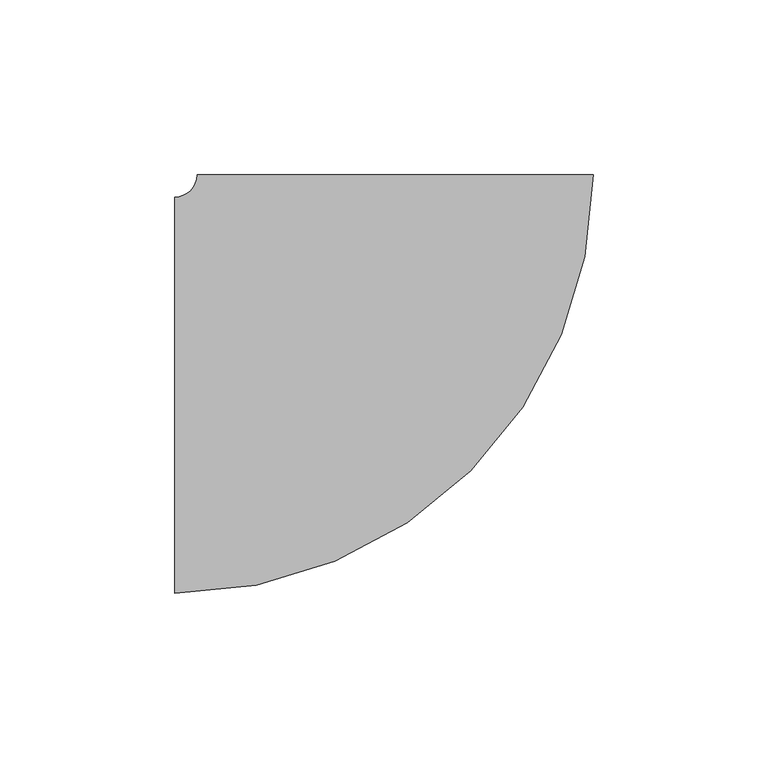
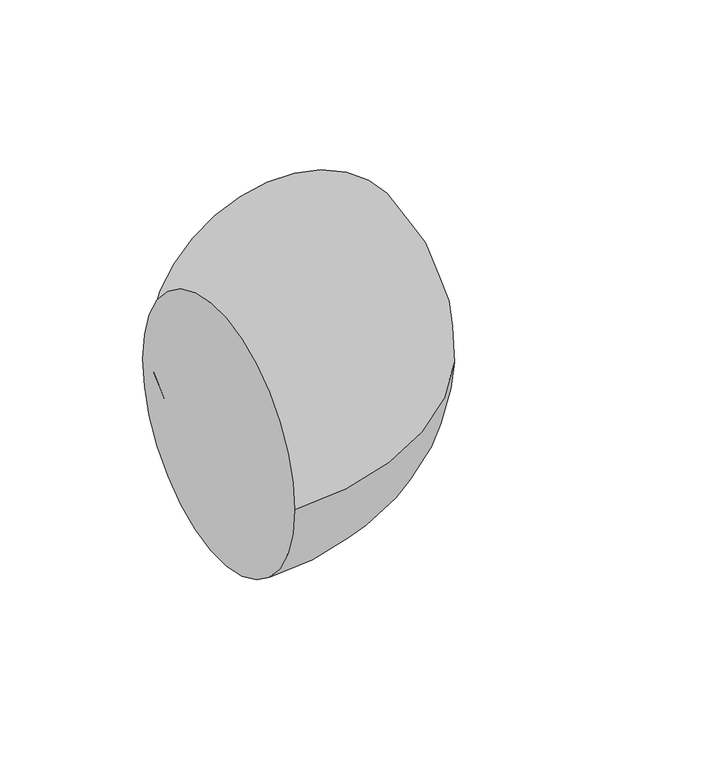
"""IFC4 building model written with IfcOpenShell, lengths in millimetres: pipe fitting geometry, M_Codo - Genérico : Estándar."""

from ifc_helpers import new_model, si_unit, point, frame, origin, place, context, project, spatial, circle_curve, ellipse_curve, trimmed, source, transform, mapped, element, save
from ifc_brep_helpers import plane_surface, revolved_surface, advanced_brep


def pipe_fitting_26941394(model_context):
    return source(origin(), model_context, "Body", "AdvancedBrep", [
        advanced_brep(
        [(-62.9401778, -56.5875, 0.0), (-62.9401778, 56.5875, 0.0), (56.5848221, 62.9425854, 0.0), (-56.5901778, 62.9377702, 0.0)],
        [
            (0, 1, circle_curve(frame((-62.9401778, 0.0, 0.0), z_axis=(-1.0, 0.0, 0.0), x_axis=(0.0, 1.0, 0.0)), 56.5875)),
            (1, 0, circle_curve(frame((-62.9401778, 0.0, 0.0), z_axis=(-1.0, 0.0, 0.0), x_axis=(0.0, 1.0, 0.0)), 56.5875)),
            (2, 3, circle_curve(frame((-0.0026779, 62.9401778, 0.0), z_axis=(-4.254638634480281e-05, 0.9999999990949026, 0.0), x_axis=(-0.9999999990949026, -4.254638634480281e-05, 0.0)), 56.5875)),
            (3, 2, circle_curve(frame((-0.0026779, 62.9401778, 0.0), z_axis=(-4.254638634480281e-05, 0.9999999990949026, 0.0), x_axis=(-0.9999999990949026, -4.254638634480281e-05, 0.0)), 56.5875)),
            (3, 1, circle_curve(frame((-62.9401778, 62.9375, 0.0), z_axis=(0.0, 0.0, -1.0), x_axis=(0.0, -1.0, 0.0)), 6.35)),
            (0, 2, circle_curve(frame((-62.9401778, 62.9375, 0.0), z_axis=(0.0, 0.0, 1.0), x_axis=(0.0, -1.0, 0.0)), 119.525)),
        ],
        [
            plane_surface(frame((-62.9401778, 0.0, 0.0), z_axis=(-1.0, 0.0, 0.0), x_axis=(0.0, 0.0, 1.0))),
            plane_surface(frame((-0.0026779, 62.9401778, 0.0), z_axis=(-4.254638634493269e-05, 0.9999999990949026, 0.0), x_axis=(0.0, 0.0, 1.0))),
            revolved_surface(trimmed(ellipse_curve(frame((-62.9401778, 0.0, 0.0), z_axis=(-1.0, 0.0, 0.0), x_axis=(0.0, 1.0, 0.0)), 56.5875, 56.5875), [point((-62.9401778, -56.5875, 0.0))], [point((-62.9401778, 56.5875, 0.0))], True, "CARTESIAN"), (-62.9401778, 62.9375, 0.0), (0.0, 0.0, 1.0)),
            revolved_surface(trimmed(ellipse_curve(frame((-62.9401778, 0.0, 0.0), z_axis=(-1.0, 0.0, 0.0), x_axis=(0.0, 1.0, 0.0)), 56.5875, 56.5875), [point((-62.9401778, 56.5875, 0.0))], [point((-62.9401778, -56.5875, 0.0))], True, "CARTESIAN"), (-62.9401778, 62.9375, 0.0), (0.0, 0.0, 1.0)),
        ],
        [
            (0, [[1, 2]]),
            (1, [[3, 4]]),
            (2, [[5, -1, 6, -4]]),
            (3, [[-6, -2, -5, -3]]),
        ],
    ),
    ])


if __name__ == "__main__":
    model = new_model("IFC4")
    model_context = context("Model", 3, world=origin())
    ifc_project = project(units=[si_unit("LENGTHUNIT", "METRE", prefix="MILLI")], contexts=[model_context])
    site = spatial("IfcSite", under=ifc_project)
    building = spatial("IfcBuilding", under=site)
    placement = place(None, origin())
    pipe_fitting_shape = pipe_fitting_26941394(model_context)
    element("IfcPipeFitting", 1, ObjectType="M_Codo - Genérico : Estándar", at=placement, inside=building, context=model_context, shape_type="MappedRepresentation", body=[
        mapped(pipe_fitting_shape, transform((0.0, 0.0, 0.0), x_axis=(1.0, 0.0, 0.0), y_axis=(0.0, 1.0, 0.0), z_axis=(0.0, 0.0, 1.0))),
    ])
    save(model, "model.ifc")
